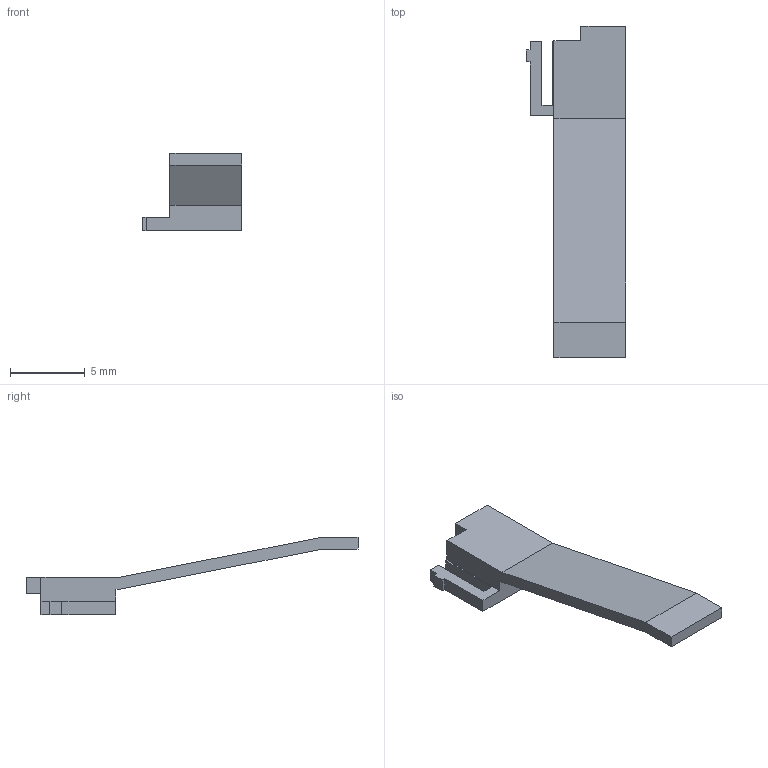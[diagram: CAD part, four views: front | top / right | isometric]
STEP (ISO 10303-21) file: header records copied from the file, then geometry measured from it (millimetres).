
FILE_DESCRIPTION(('Open CASCADE Model'),'2;1');
FILE_NAME('Open CASCADE Shape Model','2026-10-20T15:14:22',('Author'),( 'Open CASCADE'),'Open CASCADE STEP processor 7.8','Open CASCADE 7.8' ,'Unknown');
FILE_SCHEMA(('AUTOMOTIVE_DESIGN { 1 0 10303 214 1 1 1 1 }'));
Length unit declared in the file: millimetre
Products named in the file (1): Open CASCADE STEP translator 7.8 16
Bounding box: 6.65 x 22.2 x 5.2 mm (x, y, z)
Volume: 130.2 mm3; surface area: 310.6 mm2
Topology: 1 solids, 1 shells, 25 faces, 69 edges, 46 vertices
Faces by surface type: plane 25
Entity records: 1665 total; most frequent: CARTESIAN_POINT 304, DIRECTION 234, LINE 182, VECTOR 182, ORIENTED_EDGE 138, PCURVE 138, DEFINITIONAL_REPRESENTATION 138, EDGE_CURVE 69
